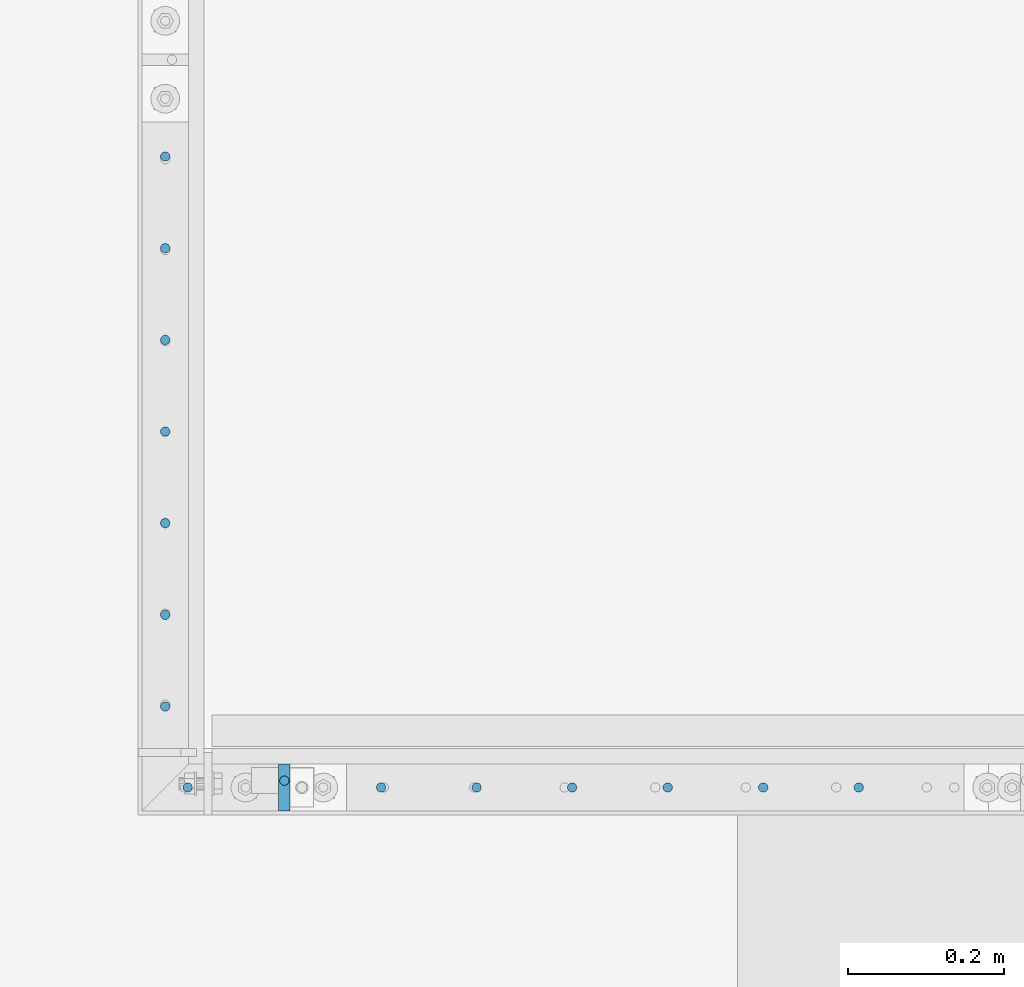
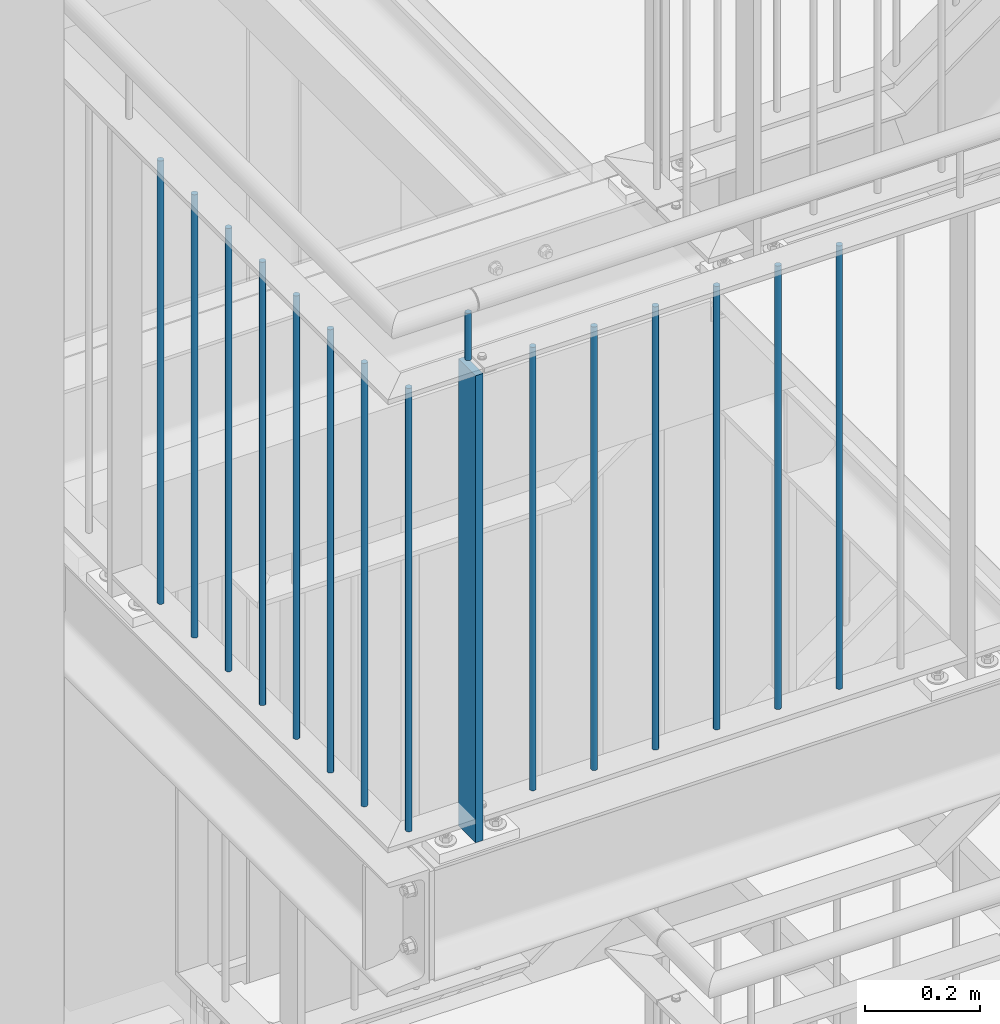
# One storey, part 6 of 825: 16 columns.
"""IFC2X3 building model written with IfcOpenShell, lengths in millimetres."""

from ifc_helpers import new_model, entity, si_unit, converted_unit, frame, origin, origin_with_axes, origin_2d, place, context, project, spatial, rectangle, circle, extrude, clip, halfspace, material, element, save


model = new_model("IFC2X3")

# Units and contexts
model_context = context("Model", 3, precision=1e-09, world=origin_with_axes())
ifc_project = project(units=[si_unit("LENGTHUNIT", "METRE", prefix="MILLI"), si_unit("AREAUNIT", "SQUARE_METRE"), si_unit("VOLUMEUNIT", "CUBIC_METRE"), converted_unit("PLANEANGLEUNIT", "DEGREE", entity("IfcPlaneAngleMeasure", 0.01745329), si_unit("PLANEANGLEUNIT", "RADIAN"), dimensions=[0, 0, 0, 0, 0, 0, 0])], contexts=[model_context])

# Site, building, storey
site_placement = place(None, origin_with_axes())
site = spatial("IfcSite", under=ifc_project, at=site_placement, Name="Cnopf'sche Kinderklinik", CompositionType="ELEMENT")
building_placement = place(site_placement, origin_with_axes())
building = spatial("IfcBuilding", under=site, at=building_placement, Name="Struktur 1", CompositionType="ELEMENT")
storey_placement = place(building_placement, origin_with_axes())
storey = spatial("IfcBuildingStorey", under=building, at=storey_placement, Name="Default Storey", CompositionType="ELEMENT", Elevation=0.0)

# Columns
ifc_material = material(Name="S235JR")
column_1_placement = place(None, frame((3424.79154585, 4526.736971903, 13618.723292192), z_axis=(0.0, 0.0, 1.0), x_axis=(-1.0, 0.0, 0.0)))
element("IfcColumn", 1, at=column_1_placement, inside=storey, material=ifc_material, Name="Railing_Post_Landing#13", ObjectType="Railing_Post_Landing#13", context=model_context, shape_type="Clipping", body=[
    clip(clip(extrude(rectangle(XDim=15.0, YDim=60.0, at=origin_2d()), origin(), (0.0, 0.0, -1.0), 1070.646584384), halfspace(frame((3424.79154585, 4526.736971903, -1019.722292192), z_axis=(0.0, 0.0, 1.0), x_axis=(-1.0, 0.0, 0.0)), True)), halfspace(frame((3424.79154585, 4526.736971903, -30.924292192), z_axis=(0.0, 0.0, -1.0), x_axis=(1.0, 0.0, 0.0)), True)),
])
column_2_placement = place(None, frame((4162.791664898, 4526.736971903, 13601.285281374), z_axis=(0.0, 0.0, 1.0), x_axis=(-1.0, 0.0, 0.0)))
element("IfcColumn", 2, at=column_2_placement, inside=storey, material=ifc_material, Name="Railing_Picket_Landing#84", ObjectType="Railing_Picket_Landing#84", context=model_context, shape_type="Clipping", body=[
    clip(clip(extrude(circle(Radius=6.0, at=origin_2d()), origin(), (0.0, 0.0, -1.0), 965.770562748), halfspace(frame((4162.791664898, 4526.736971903, -13.486281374), z_axis=(0.0, 0.0, -1.0), x_axis=(1.0, 0.0, 0.0)), True)), halfspace(frame((4162.791664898, 4526.736971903, -952.284281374), z_axis=(0.0, 0.0, 1.0), x_axis=(-1.0, 0.0, 0.0)), True)),
])
column_3_placement = place(None, frame((4040.041641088, 4526.736971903, 13601.285281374), z_axis=(0.0, 0.0, 1.0), x_axis=(-1.0, 0.0, 0.0)))
element("IfcColumn", 3, at=column_3_placement, inside=storey, material=ifc_material, Name="Railing_Picket_Landing#85", ObjectType="Railing_Picket_Landing#85", context=model_context, shape_type="Clipping", body=[
    clip(clip(extrude(circle(Radius=6.0, at=origin_2d()), origin(), (0.0, 0.0, -1.0), 965.770562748), halfspace(frame((4040.041641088, 4526.736971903, -13.486281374), z_axis=(0.0, 0.0, -1.0), x_axis=(1.0, 0.0, 0.0)), True)), halfspace(frame((4040.041641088, 4526.736971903, -952.284281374), z_axis=(0.0, 0.0, 1.0), x_axis=(-1.0, 0.0, 0.0)), True)),
])
column_4_placement = place(None, frame((3917.291617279, 4526.736971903, 13601.285281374), z_axis=(0.0, 0.0, 1.0), x_axis=(-1.0, 0.0, 0.0)))
element("IfcColumn", 4, at=column_4_placement, inside=storey, material=ifc_material, Name="Railing_Picket_Landing#86", ObjectType="Railing_Picket_Landing#86", context=model_context, shape_type="Clipping", body=[
    clip(clip(extrude(circle(Radius=6.0, at=origin_2d()), origin(), (0.0, 0.0, -1.0), 965.770562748), halfspace(frame((3917.291617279, 4526.736971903, -13.486281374), z_axis=(0.0, 0.0, -1.0), x_axis=(1.0, 0.0, 0.0)), True)), halfspace(frame((3917.291617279, 4526.736971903, -952.284281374), z_axis=(0.0, 0.0, 1.0), x_axis=(-1.0, 0.0, 0.0)), True)),
])
column_5_placement = place(None, frame((3794.541593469, 4526.736971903, 13601.285281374), z_axis=(0.0, 0.0, 1.0), x_axis=(-1.0, 0.0, 0.0)))
element("IfcColumn", 5, at=column_5_placement, inside=storey, material=ifc_material, Name="Railing_Picket_Landing#87", ObjectType="Railing_Picket_Landing#87", context=model_context, shape_type="Clipping", body=[
    clip(clip(extrude(circle(Radius=6.0, at=origin_2d()), origin(), (0.0, 0.0, -1.0), 965.770562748), halfspace(frame((3794.541593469, 4526.736971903, -13.486281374), z_axis=(0.0, 0.0, -1.0), x_axis=(1.0, 0.0, 0.0)), True)), halfspace(frame((3794.541593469, 4526.736971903, -952.284281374), z_axis=(0.0, 0.0, 1.0), x_axis=(-1.0, 0.0, 0.0)), True)),
])
column_6_placement = place(None, frame((3671.79156966, 4526.736971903, 13601.285281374), z_axis=(0.0, 0.0, 1.0), x_axis=(-1.0, 0.0, 0.0)))
element("IfcColumn", 6, at=column_6_placement, inside=storey, material=ifc_material, Name="Railing_Picket_Landing#88", ObjectType="Railing_Picket_Landing#88", context=model_context, shape_type="Clipping", body=[
    clip(clip(extrude(circle(Radius=6.0, at=origin_2d()), origin(), (0.0, 0.0, -1.0), 965.770562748), halfspace(frame((3671.79156966, 4526.736971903, -13.486281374), z_axis=(0.0, 0.0, -1.0), x_axis=(1.0, 0.0, 0.0)), True)), halfspace(frame((3671.79156966, 4526.736971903, -952.284281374), z_axis=(0.0, 0.0, 1.0), x_axis=(-1.0, 0.0, 0.0)), True)),
])
column_7_placement = place(None, frame((3549.04154585, 4526.736971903, 13601.285281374), z_axis=(0.0, 0.0, 1.0), x_axis=(-1.0, 0.0, 0.0)))
element("IfcColumn", 7, at=column_7_placement, inside=storey, material=ifc_material, Name="Railing_Picket_Landing#89", ObjectType="Railing_Picket_Landing#89", context=model_context, shape_type="Clipping", body=[
    clip(clip(extrude(circle(Radius=6.0, at=origin_2d()), origin(), (0.0, 0.0, -1.0), 965.770562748), halfspace(frame((3549.04154585, 4526.736971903, -13.486281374), z_axis=(0.0, 0.0, -1.0), x_axis=(1.0, 0.0, 0.0)), True)), halfspace(frame((3549.04154585, 4526.736971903, -952.284281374), z_axis=(0.0, 0.0, 1.0), x_axis=(-1.0, 0.0, 0.0)), True)),
])
column_8_placement = place(None, frame((3300.54154585, 4526.736971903, 13601.285281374), z_axis=(0.0, 0.0, 1.0), x_axis=(-1.0, 0.0, 0.0)))
element("IfcColumn", 8, at=column_8_placement, inside=storey, material=ifc_material, Name="Railing_Picket_Landing#90", ObjectType="Railing_Picket_Landing#90", context=model_context, shape_type="Clipping", body=[
    clip(clip(extrude(circle(Radius=6.0, at=origin_2d()), origin(), (0.0, 0.0, -1.0), 965.770562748), halfspace(frame((3300.54154585, 4526.736971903, -13.486281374), z_axis=(0.0, 0.0, -1.0), x_axis=(1.0, 0.0, 0.0)), True)), halfspace(frame((3300.54154585, 4526.736971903, -952.284281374), z_axis=(0.0, 0.0, 1.0), x_axis=(-1.0, 0.0, 0.0)), True)),
])
column_9_placement = place(None, frame((3271.713402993, 4630.705992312, 13601.285281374), z_axis=(0.0, 0.0, 1.0), x_axis=(0.0, 1.0, 0.0)))
element("IfcColumn", 9, at=column_9_placement, inside=storey, material=ifc_material, Name="Railing_Picket_Landing#91", ObjectType="Railing_Picket_Landing#91", context=model_context, shape_type="Clipping", body=[
    clip(clip(extrude(circle(Radius=6.0, at=origin_2d()), origin(), (0.0, 0.0, -1.0), 965.770562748), halfspace(frame((-4630.705992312, 3271.713402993, -13.486281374), z_axis=(0.0, 0.0, -1.0), x_axis=(0.0, 1.0, 0.0)), True)), halfspace(frame((-4630.705992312, 3271.713402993, -952.284281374), z_axis=(0.0, 0.0, 1.0), x_axis=(0.0, -1.0, 0.0)), True)),
])
column_10_placement = place(None, frame((3271.713402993, 4748.503155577, 13601.285281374), z_axis=(0.0, 0.0, 1.0), x_axis=(0.0, 1.0, 0.0)))
element("IfcColumn", 10, at=column_10_placement, inside=storey, material=ifc_material, Name="Railing_Picket_Landing#92", ObjectType="Railing_Picket_Landing#92", context=model_context, shape_type="Clipping", body=[
    clip(clip(extrude(circle(Radius=6.0, at=origin_2d()), origin(), (0.0, 0.0, -1.0), 965.770562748), halfspace(frame((-4748.503155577, 3271.713402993, -13.486281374), z_axis=(0.0, 0.0, -1.0), x_axis=(0.0, 1.0, 0.0)), True)), halfspace(frame((-4748.503155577, 3271.713402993, -952.284281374), z_axis=(0.0, 0.0, 1.0), x_axis=(0.0, -1.0, 0.0)), True)),
])
column_11_placement = place(None, frame((3271.713402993, 4866.300318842, 13601.285281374), z_axis=(0.0, 0.0, 1.0), x_axis=(0.0, 1.0, 0.0)))
element("IfcColumn", 11, at=column_11_placement, inside=storey, material=ifc_material, Name="Railing_Picket_Landing#93", ObjectType="Railing_Picket_Landing#93", context=model_context, shape_type="Clipping", body=[
    clip(clip(extrude(circle(Radius=6.0, at=origin_2d()), origin(), (0.0, 0.0, -1.0), 965.770562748), halfspace(frame((-4866.300318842, 3271.713402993, -13.486281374), z_axis=(0.0, 0.0, -1.0), x_axis=(0.0, 1.0, 0.0)), True)), halfspace(frame((-4866.300318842, 3271.713402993, -952.284281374), z_axis=(0.0, 0.0, 1.0), x_axis=(0.0, -1.0, 0.0)), True)),
])
column_12_placement = place(None, frame((3271.713402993, 4984.097482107, 13601.285281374), z_axis=(0.0, 0.0, 1.0), x_axis=(0.0, 1.0, 0.0)))
element("IfcColumn", 12, at=column_12_placement, inside=storey, material=ifc_material, Name="Railing_Picket_Landing#94", ObjectType="Railing_Picket_Landing#94", context=model_context, shape_type="Clipping", body=[
    clip(clip(extrude(circle(Radius=6.0, at=origin_2d()), origin(), (0.0, 0.0, -1.0), 965.770562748), halfspace(frame((-4984.097482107, 3271.713402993, -13.486281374), z_axis=(0.0, 0.0, -1.0), x_axis=(0.0, 1.0, 0.0)), True)), halfspace(frame((-4984.097482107, 3271.713402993, -952.284281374), z_axis=(0.0, 0.0, 1.0), x_axis=(0.0, -1.0, 0.0)), True)),
])
column_13_placement = place(None, frame((3271.713402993, 5101.894645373, 13601.285281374), z_axis=(0.0, 0.0, 1.0), x_axis=(0.0, 1.0, 0.0)))
element("IfcColumn", 13, at=column_13_placement, inside=storey, material=ifc_material, Name="Railing_Picket_Landing#95", ObjectType="Railing_Picket_Landing#95", context=model_context, shape_type="Clipping", body=[
    clip(clip(extrude(circle(Radius=6.0, at=origin_2d()), origin(), (0.0, 0.0, -1.0), 965.770562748), halfspace(frame((-5101.894645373, 3271.713402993, -13.486281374), z_axis=(0.0, 0.0, -1.0), x_axis=(0.0, 1.0, 0.0)), True)), halfspace(frame((-5101.894645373, 3271.713402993, -952.284281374), z_axis=(0.0, 0.0, 1.0), x_axis=(0.0, -1.0, 0.0)), True)),
])
column_14_placement = place(None, frame((3271.713402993, 5219.691808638, 13601.285281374), z_axis=(0.0, 0.0, 1.0), x_axis=(0.0, 1.0, 0.0)))
element("IfcColumn", 14, at=column_14_placement, inside=storey, material=ifc_material, Name="Railing_Picket_Landing#96", ObjectType="Railing_Picket_Landing#96", context=model_context, shape_type="Clipping", body=[
    clip(clip(extrude(circle(Radius=6.0, at=origin_2d()), origin(), (0.0, 0.0, -1.0), 965.770562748), halfspace(frame((-5219.691808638, 3271.713402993, -13.486281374), z_axis=(0.0, 0.0, -1.0), x_axis=(0.0, 1.0, 0.0)), True)), halfspace(frame((-5219.691808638, 3271.713402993, -952.284281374), z_axis=(0.0, 0.0, 1.0), x_axis=(0.0, -1.0, 0.0)), True)),
])
column_15_placement = place(None, frame((3271.713402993, 5337.488971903, 13601.285281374), z_axis=(0.0, 0.0, 1.0), x_axis=(0.0, 1.0, 0.0)))
element("IfcColumn", 15, at=column_15_placement, inside=storey, material=ifc_material, Name="Railing_Picket_Landing#97", ObjectType="Railing_Picket_Landing#97", context=model_context, shape_type="Clipping", body=[
    clip(clip(extrude(circle(Radius=6.0, at=origin_2d()), origin(), (0.0, 0.0, -1.0), 965.770562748), halfspace(frame((-5337.488971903, 3271.713402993, -13.486281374), z_axis=(0.0, 0.0, -1.0), x_axis=(0.0, 1.0, 0.0)), True)), halfspace(frame((-5337.488971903, 3271.713402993, -952.284281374), z_axis=(0.0, 0.0, 1.0), x_axis=(0.0, -1.0, 0.0)), True)),
])
column_16_placement = place(None, frame((3424.79154585, 4535.536971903, 13706.285281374), z_axis=(0.0, 0.0, 1.0), x_axis=(0.0, 1.0, 0.0)))
element("IfcColumn", 16, at=column_16_placement, inside=storey, material=ifc_material, Name="Bar#13", ObjectType="Bar#13", context=model_context, shape_type="Clipping", body=[
    clip(clip(extrude(circle(Radius=6.0, at=origin_2d()), origin(), (0.0, 0.0, -1.0), 116.970562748), halfspace(frame((-4535.536971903, 3424.79154585, -8.486281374), z_axis=(0.0, 0.0, -1.0), x_axis=(0.0, 1.0, 0.0)), True)), halfspace(frame((-4535.536971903, 3424.79154585, -108.484281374), z_axis=(0.0, 0.0, 1.0), x_axis=(0.0, -1.0, 0.0)), True)),
])

save(model, "model.ifc")
